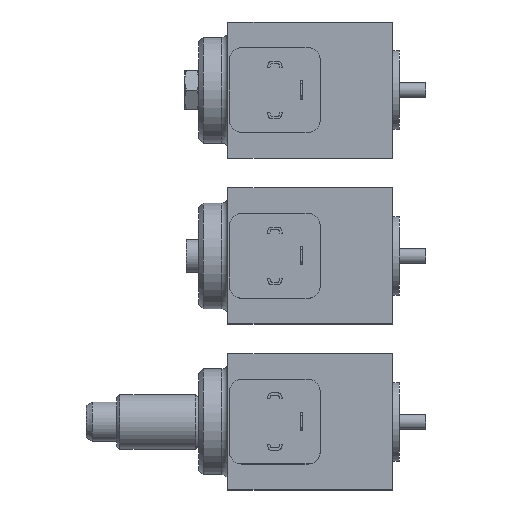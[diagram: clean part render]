
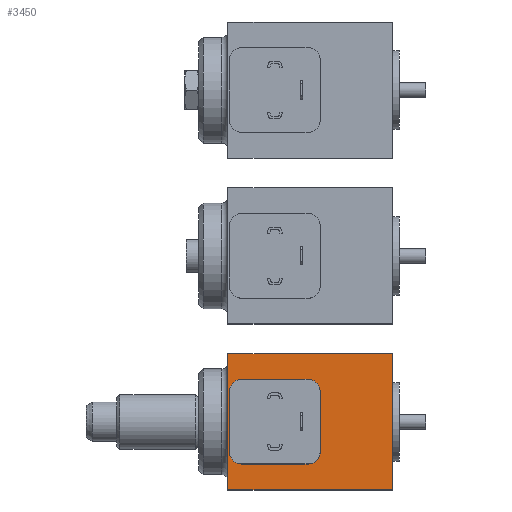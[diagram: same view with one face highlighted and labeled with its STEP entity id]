
A CAD part, top view. The second image highlights one B-rep face of the part: STEP entity #3450.
In plain terms, the highlighted planar face has unit normal (0, 0, 1).
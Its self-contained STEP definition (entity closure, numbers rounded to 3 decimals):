
#3450=ADVANCED_FACE('', (#3460,#3470,#3480,#3490,#3500), #3510, .T.);
#19370=AXIS2_PLACEMENT_3D('Ax2Pl3d', #19380, #19390, #19400);
#19450=AXIS2_PLACEMENT_3D('Ax2Pl3d', #19460, #19470, #19480);
#19490=AXIS2_PLACEMENT_3D('Ax2Pl3d', #19500, #19510, #19520);
#19530=AXIS2_PLACEMENT_3D('Ax2Pl3d', #19540, #19550, #19560);
#19570=AXIS2_PLACEMENT_3D('Ax2Pl3d', #19580, #19590, #19600);
#45840=CARTESIAN_POINT('', (54.5,45.,245.));
#45850=CARTESIAN_POINT('', (54.5,45.,245.));
#45860=CARTESIAN_POINT('', (54.5,0.,245.));
#19380=CARTESIAN_POINT('HicPkt', (12.,22.5,245.));
#45920=CARTESIAN_POINT('', (12.,30.,245.));
#19460=CARTESIAN_POINT('HicPkt', (0.,45.,245.))
;
#45940=CARTESIAN_POINT('', (0.,0.,
245.));
#45950=CARTESIAN_POINT('', (0.,45.,245.));
#45960=CARTESIAN_POINT('', (0.,0.,
245.));
#45970=CARTESIAN_POINT('', (54.5,0.,245.));
#45980=CARTESIAN_POINT('', (0.,45.,245.));
#19500=CARTESIAN_POINT('HicPkt', (22.5,22.5,245.));
#45990=CARTESIAN_POINT('', (22.5,24.,245.));
#19540=CARTESIAN_POINT('HicPkt', (6.75,31.75,245.));
#46000=CARTESIAN_POINT('', (6.75,33.25,245.));
#19580=CARTESIAN_POINT('HicPkt', (25.25,13.25,245.));
#46010=CARTESIAN_POINT('', (25.25,14.75,245.));
#53030=CIRCLE('Circle', #19370, 7.5);
#53050=CIRCLE('Circle', #19490, 1.5);
#53060=CIRCLE('Circle', #19530, 1.5);
#53070=CIRCLE('Circle', #19570, 1.5);
#80350=DIRECTION('', (0.,1.,0.));
#19390=DIRECTION('Axis', (0.,0.,1.));
#19400=DIRECTION('RefDirection', (1.,0.,0.));
#19470=DIRECTION('Axis', (0.,0.,1.));
#19480=DIRECTION('RefDirection', (1.,0.,0.));
#80370=DIRECTION('', (0.,-1.,0.));
#80380=DIRECTION('', (1.,0.,0.));
#80390=DIRECTION('', (-1.,0.,0.));
#19510=DIRECTION('Axis', (0.,0.,1.));
#19520=DIRECTION('RefDirection', (1.,0.,0.));
#19550=DIRECTION('Axis', (0.,0.,1.));
#19560=DIRECTION('RefDirection', (1.,0.,0.));
#19590=DIRECTION('Axis', (0.,0.,1.));
#19600=DIRECTION('RefDirection', (1.,0.,0.));
#87200=EDGE_CURVE('', #87210, #87180, #87220, .T.);
#87330=EDGE_CURVE('', #87340, #87340, #53030, .T.);
#87370=EDGE_CURVE('', #87380, #87390, #87400, .T.);
#87410=EDGE_CURVE('', #87390, #87210, #87420, .T.);
#87430=EDGE_CURVE('', #87180, #87380, #87440, .T.);
#87450=EDGE_CURVE('', #87460, #87460, #53050, .T.);
#87470=EDGE_CURVE('', #87480, #87480, #53060, .T.);
#87490=EDGE_CURVE('', #87500, #87500, #53070, .T.);
#103400=EDGE_LOOP('Edge_loop', (#103410,#103420,#103430,#103440));
#103450=EDGE_LOOP('Edge_loop', (#103460));
#103470=EDGE_LOOP('Edge_loop', (#103480));
#103490=EDGE_LOOP('Edge_loop', (#103500));
#103510=EDGE_LOOP('Edge_loop', (#103520));
#3470=FACE_BOUND('', #103450, .T.);
#3480=FACE_BOUND('', #103470, .T.);
#3490=FACE_BOUND('', #103490, .T.);
#3500=FACE_BOUND('', #103510, .T.);
#3460=FACE_OUTER_BOUND('Face_outer_bound', #103400, .T.);
#87220=LINE('Line', #45850, #126600);
#87400=LINE('Line', #45940, #126620);
#87420=LINE('Line', #45970, #126630);
#87440=LINE('Line', #45980, #126640);
#103410=ORIENTED_EDGE('', *, *, #87370, .T.);
#103420=ORIENTED_EDGE('', *, *, #87410, .T.);
#103430=ORIENTED_EDGE('', *, *, #87200, .T.);
#103440=ORIENTED_EDGE('', *, *, #87430, .T.);
#103460=ORIENTED_EDGE('', *, *, #87330, .F.);
#103480=ORIENTED_EDGE('', *, *, #87450, .F.);
#103500=ORIENTED_EDGE('', *, *, #87470, .F.);
#103520=ORIENTED_EDGE('', *, *, #87490, .F.);
#3510=PLANE('Plane', #19450);
#126600=VECTOR('', #80350, 45.);
#126620=VECTOR('', #80370, 45.);
#126630=VECTOR('', #80380, 54.5);
#126640=VECTOR('', #80390, 54.5);
#87180=VERTEX_POINT('', #45840);
#87210=VERTEX_POINT('', #45860);
#87340=VERTEX_POINT('', #45920);
#87380=VERTEX_POINT('', #45950);
#87390=VERTEX_POINT('', #45960);
#87460=VERTEX_POINT('', #45990);
#87480=VERTEX_POINT('', #46000);
#87500=VERTEX_POINT('', #46010);
